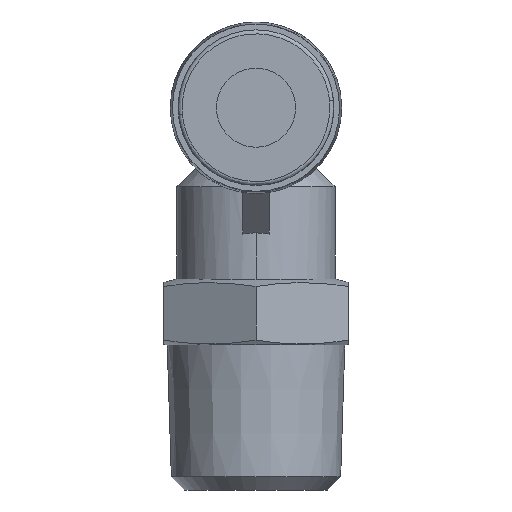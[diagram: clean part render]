
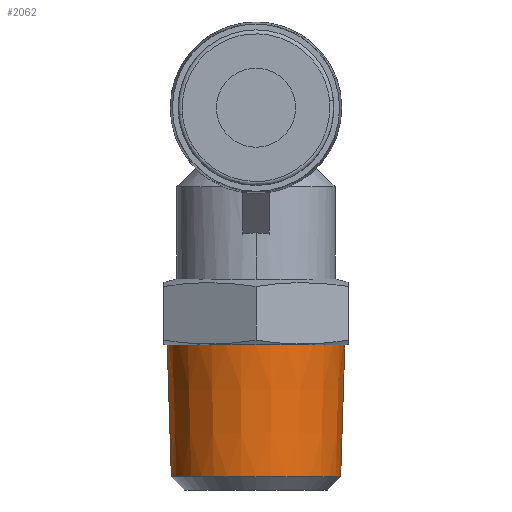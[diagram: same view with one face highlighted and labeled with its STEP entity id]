
A CAD part, left-side view. The second image highlights one B-rep face of the part: STEP entity #2062.
In plain terms, the highlighted conical face has half-angle 1.79 degrees and reference radius 6.734 mm.
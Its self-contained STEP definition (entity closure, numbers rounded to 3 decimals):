
#225 = DIRECTION ( 'NONE',  ( 0., 0.031, 1. ) ) ;
#240 = CARTESIAN_POINT ( 'NONE',  ( 0., 6.734, 11. ) ) ;
#246 = ORIENTED_EDGE ( 'NONE', *, *, #3150, .F. ) ;
#292 = AXIS2_PLACEMENT_3D ( 'NONE', #2564, #2546, #2538 ) ;
#333 = ORIENTED_EDGE ( 'NONE', *, *, #2570, .T. ) ;
#335 = EDGE_LOOP ( 'NONE', ( #568, #423, #333, #246 ) ) ;
#423 = ORIENTED_EDGE ( 'NONE', *, *, #3403, .T. ) ;
#425 = LINE ( 'NONE', #2915, #431 ) ;
#431 = VECTOR ( 'NONE', #2967, 1000. ) ;
#454 = CARTESIAN_POINT ( 'NONE',  ( 0., -6.734, 11. ) ) ;
#551 = CIRCLE ( 'NONE', #1099, 6.423 ) ;
#568 = ORIENTED_EDGE ( 'NONE', *, *, #2718, .F. ) ;
#647 = DIRECTION ( 'NONE',  ( 0., -1., 0. ) ) ;
#662 = VERTEX_POINT ( 'NONE', #1610 ) ;
#714 = VERTEX_POINT ( 'NONE', #3274 ) ;
#747 = DIRECTION ( 'NONE',  ( 1., 0., 0. ) ) ;
#794 = VERTEX_POINT ( 'NONE', #454 ) ;
#881 = DIRECTION ( 'NONE',  ( 0., 0., 1. ) ) ;
#978 = CARTESIAN_POINT ( 'NONE',  ( 0., 0., 1.023 ) ) ;
#1099 = AXIS2_PLACEMENT_3D ( 'NONE', #978, #881, #747 ) ;
#1610 = CARTESIAN_POINT ( 'NONE',  ( 0., 6.734, 11. ) ) ;
#1655 = AXIS2_PLACEMENT_3D ( 'NONE', #3310, #3570, #647 ) ;
#1712 = CIRCLE ( 'NONE', #292, 6.734 ) ;
#2062 = ADVANCED_FACE ( '89', ( #3034 ), #2798, .T. ) ;
#2538 = DIRECTION ( 'NONE',  ( 1., 0., 0. ) ) ;
#2546 = DIRECTION ( 'NONE',  ( 0., 0., 1. ) ) ;
#2564 = CARTESIAN_POINT ( 'NONE',  ( 0., 0., 11. ) ) ;
#2570 = EDGE_CURVE ( 'NONE', #714, #794, #425, .T. ) ;
#2718 = EDGE_CURVE ( 'NONE', #3131, #662, #3737, .T. ) ;
#2798 = CONICAL_SURFACE ( 'NONE', #1655, 6.734, 0.031 ) ;
#2812 = CARTESIAN_POINT ( 'NONE',  ( 0., 6.423, 1.023 ) ) ;
#2915 = CARTESIAN_POINT ( 'NONE',  ( 0., -6.734, 11. ) ) ;
#2967 = DIRECTION ( 'NONE',  ( 0., -0.031, 1. ) ) ;
#3034 = FACE_OUTER_BOUND ( 'NONE', #335, .T. ) ;
#3131 = VERTEX_POINT ( 'NONE', #2812 ) ;
#3150 = EDGE_CURVE ( 'NONE', #662, #794, #1712, .T. ) ;
#3274 = CARTESIAN_POINT ( 'NONE',  ( 0., -6.423, 1.023 ) ) ;
#3310 = CARTESIAN_POINT ( 'NONE',  ( 0., 0., 11. ) ) ;
#3403 = EDGE_CURVE ( 'NONE', #3131, #714, #551, .T. ) ;
#3545 = VECTOR ( 'NONE', #225, 1000. ) ;
#3570 = DIRECTION ( 'NONE',  ( 0., 0., 1. ) ) ;
#3737 = LINE ( 'NONE', #240, #3545 ) ;
